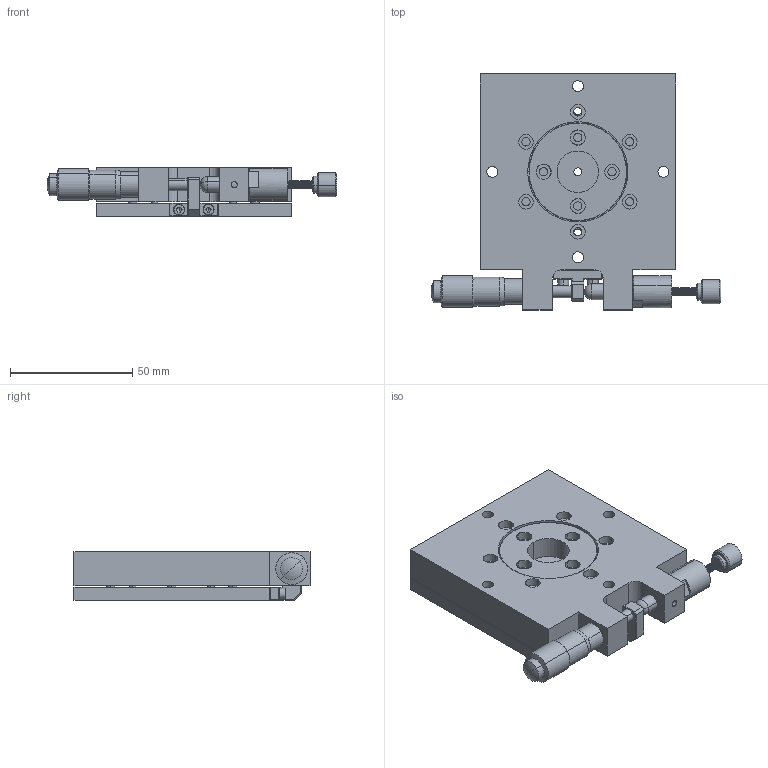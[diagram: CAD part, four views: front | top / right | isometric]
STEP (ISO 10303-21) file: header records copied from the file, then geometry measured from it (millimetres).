
FILE_DESCRIPTION (( 'STEP AP203' ), '1' );
FILE_NAME ('ARF80-AR(客用).STEP', '2019-02-25T02:16:11', ( '微软用户' ), ( '微软中国' ), 'SwSTEP 2.0', 'SolidWorks 2017', '' );
FILE_SCHEMA (( 'CONFIG_CONTROL_DESIGN' ));
Length unit declared in the file: millimetre
Products named in the file (1): ARF80-AR(諦蚚)
Bounding box: 118.5 x 96.5 x 20 mm (x, y, z)
Surface area: 36686.4 mm2 (no closed solid volume)
Topology: 0 solids, 12 shells, 354 faces, 1017 edges, 674 vertices
Faces by surface type: cylinder 223, plane 87, cone 33, torus 6, bspline 3, sphere 2
Entity records: 18638 total; most frequent: CARTESIAN_POINT 9794, ORIENTED_EDGE 1838, DIRECTION 1779, EDGE_CURVE 1007, VERTEX_POINT 672, AXIS2_PLACEMENT_3D 670, LINE 439, VECTOR 439
